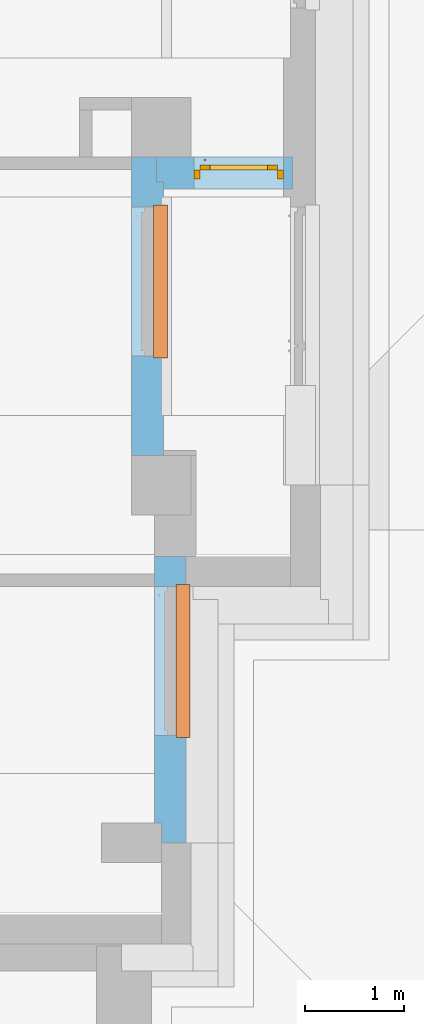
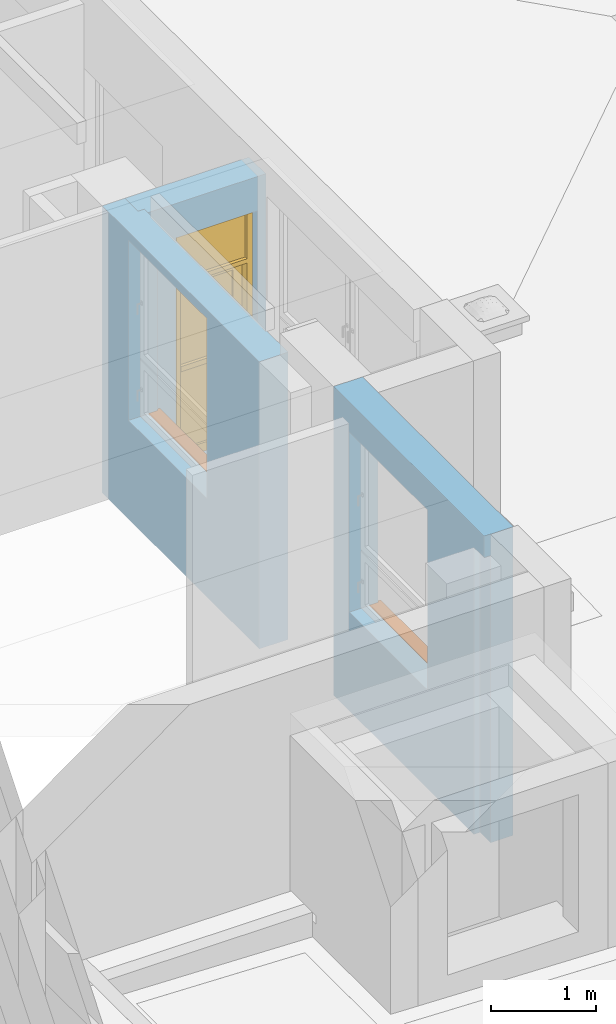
# One storey, part 42 of 50: 2 proxies, 1 door, 3 openings, plus 3 elements that do not belong to this part.
"""IFC4 building model written with IfcOpenShell, lengths in metres."""

from ifc_helpers import new_model, entity, si_unit, converted_unit, derived_unit, frame, frame_2d, origin, origin_with_axes, place, context, subcontext, project, spatial, polyline, rectangle, outline, extrude, clip, bounded_halfspace, closed_shell, open_shell, faceted_brep, surface_model, source, transform, mapped, material, layer, layer_set, layer_usage, type_object, element, fill, save


model = new_model("IFC4")

# Units and contexts
model_context = context("Model", 3, precision=1e-05, world=origin())
body_context = subcontext(model_context, "Body", "Model", "MODEL_VIEW")
ifc_project = project(units=[si_unit("LENGTHUNIT", "METRE"), si_unit("AREAUNIT", "SQUARE_METRE"), si_unit("VOLUMEUNIT", "CUBIC_METRE"), si_unit("MASSUNIT", "GRAM", prefix="KILO"), converted_unit("PLANEANGLEUNIT", "DEGREE", entity("IfcPlaneAngleMeasure", 0.0174532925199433), si_unit("PLANEANGLEUNIT", "RADIAN"), dimensions=[0, 0, 0, 0, 0, 0, 0]), derived_unit("THERMALTRANSMITTANCEUNIT", [(si_unit("POWERUNIT", "WATT"), 1), (si_unit("THERMODYNAMICTEMPERATUREUNIT", "KELVIN"), -1), (si_unit("LENGTHUNIT", "METRE"), -2)]), derived_unit("VOLUMETRICFLOWRATEUNIT", [(si_unit("LENGTHUNIT", "METRE"), 3), (converted_unit("TIMEUNIT", "hour", entity("IfcTimeMeasure", 3600.0), si_unit("TIMEUNIT", "SECOND"), dimensions=[0, 0, 1, 0, 0, 0, 0]), -1), (si_unit("LENGTHUNIT", "METRE"), -1)])], contexts=[model_context])

# Site, building, storey
site_placement = place(None, origin())
site = spatial("IfcSite", under=ifc_project, at=site_placement, Name="3. ASŘ", CompositionType="ELEMENT")
building_placement = place(site_placement, origin())
building = spatial("IfcBuilding", under=site, at=building_placement, Name="Pavilon C", CompositionType="ELEMENT")
storey_placement = place(building_placement, frame((0.0, 0.0, 3.6)))
storey = spatial("IfcBuildingStorey", under=building, at=storey_placement, Name="Půdorys 2.NP", CompositionType="ELEMENT", Elevation=3.6)

# Wall, opening, proxy
ifc_material_1 = material(Name="PLYNOSILIKÁT")
ifc_layer_1 = layer(ifc_material_1, 0.32)
ifc_layer_set_1 = layer_set([ifc_layer_1])
ifc_layer_usage_1 = layer_usage(ifc_layer_set_1, "AXIS2", "POSITIVE", 0.0)
wall_1_placement = place(storey_placement, frame((50.2, -5.51980683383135e-15, -0.1), z_axis=(0.0, 0.0, 1.0), x_axis=(0.0, 1.0, 0.0)))
wall_1 = element("IfcWall", 1, at=wall_1_placement, inside=storey, material=ifc_layer_usage_1, Name="PLYNOSILIKÁT", context=body_context, shape_type="Clipping", body=[
    clip(extrude(rectangle(XDim=2.88, YDim=0.32, at=frame_2d((1.44, 0.16), x_axis=(1.0, 0.0))), origin_with_axes(), (0.0, 0.0, 1.0), 3.6), bounded_halfspace(frame((0.0999999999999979, 0.285, 3.35), z_axis=(0.0, 0.0, 1.0), x_axis=(0.0, 1.0, 0.0)), True, origin_with_axes(), polyline([(0.199999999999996, 0.25), (0.199999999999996, 0.32), (6.28386231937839e-17, 0.32), (6.28386231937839e-17, 0.25), (0.199999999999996, 0.25)]))),
])
opening_1_placement = place(wall_1_placement, frame((1.08, 0.0, 1.15), z_axis=(0.0, 1.0, 0.0), x_axis=(0.0, 0.0, 1.0)))
opening_1 = element("IfcOpeningElement", 2, at=opening_1_placement, cuts=wall_1, Name="Okenní otvor", ObjectType="Opening", context=body_context, shape_type="SweptSolid", body=[
    extrude(outline(polyline([(0.0, 1.5), (2.1, 1.5), (2.1, 0.0), (0.0, 0.0), (0.0, 1.5)])), origin_with_axes(), (0.0, 0.0, 1.0), 0.32),
])
ifc_material_2 = material(Name="PLECH")
shared_shape_1 = source(origin_with_axes(), body_context, "Body", "Brep", [
    faceted_brep([(-4.54747350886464e-16, 1.45519152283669e-14, 0.0), (-4.54747350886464e-16, 0.100000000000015, 0.0), (-4.54747350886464e-16, 0.100000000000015, 0.005), (-4.54747350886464e-16, 1.45519152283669e-14, 0.005), (1.5, 1.45519152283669e-14, 0.0), (1.5, 1.45519152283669e-14, 0.005), (1.5, 0.100000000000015, 0.005), (1.5, 0.100000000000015, 0.0), (-0.0200000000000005, 1.45519152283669e-14, 0.0), (-0.0200000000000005, -0.0349999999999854, 0.0), (1.52, -0.0349999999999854, 0.0), (1.52, 1.45519152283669e-14, 0.0), (1.52, 1.45519152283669e-14, 0.005), (1.52, -0.0399999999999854, 0.005), (-0.0200000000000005, -0.0399999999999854, 0.005), (-0.0200000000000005, 1.45519152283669e-14, 0.005), (-0.0200000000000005, -0.0399999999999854, -0.025), (-0.0200000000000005, -0.0349999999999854, -0.025), (1.52, -0.0349999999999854, -0.025), (1.52, -0.0399999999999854, -0.025)], [[[0, 1, 2, 3]], [[4, 5, 6, 7]], [[1, 0, 8, 9, 10, 11, 4, 7]], [[2, 1, 7, 6]], [[3, 2, 6, 5, 12, 13, 14, 15]], [[8, 15, 14, 16, 17, 9]], [[11, 10, 18, 19, 13, 12]], [[15, 8, 0, 3]], [[5, 4, 11, 12]], [[16, 14, 13, 19]], [[17, 16, 19, 18]], [[9, 17, 18, 10]]], orient=[[False], [False], [False], [False], [False], [False], [False], [False], [False], [False], [False], [False]]),
    faceted_brep([(-0.0200000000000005, 1.45519152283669e-14, 0.0), (-0.0200000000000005, 0.100000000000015, 0.0), (-0.0200000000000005, 0.100000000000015, 0.005), (-0.0200000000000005, 1.45519152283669e-14, 0.005), (-4.54747350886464e-16, 1.45519152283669e-14, 0.0), (-4.54747350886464e-16, 1.45519152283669e-14, 0.005), (-4.54747350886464e-16, 0.100000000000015, 0.005), (-4.54747350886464e-16, 0.100000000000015, 0.0)], [[[0, 1, 2, 3]], [[4, 5, 6, 7]], [[1, 0, 4, 7]], [[2, 1, 7, 6]], [[3, 2, 6, 5]], [[0, 3, 5, 4]]], orient=[[False], [False], [False], [False], [False], [False]]),
    faceted_brep([(1.5, 1.45519152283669e-14, 0.0), (1.5, 0.100000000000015, 0.0), (1.5, 0.100000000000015, 0.005), (1.5, 1.45519152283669e-14, 0.005), (1.52, 1.45519152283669e-14, 0.0), (1.52, 1.45519152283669e-14, 0.005), (1.52, 0.100000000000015, 0.005), (1.52, 0.100000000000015, 0.0)], [[[0, 1, 2, 3]], [[4, 5, 6, 7]], [[1, 0, 4, 7]], [[2, 1, 7, 6]], [[3, 2, 6, 5]], [[0, 3, 5, 4]]], orient=[[False], [False], [False], [False], [False], [False]]),
])
proxy_1_placement = place(opening_1_placement, frame((0.0, 0.0, 0.0), z_axis=(1.0, 0.0, 0.0), x_axis=(0.0, 1.0, 0.0)))
proxy_1 = element("IfcBuildingElementProxy", 3, at=proxy_1_placement, inside=storey, material=ifc_material_2, Name="Parapet vnější", context=body_context, shape_type="MappedRepresentation", body=[
    mapped(shared_shape_1, transform((0.0, 0.0, 0.0), x_axis=(1.0, 0.0, 0.0), y_axis=(0.0, 1.0, 0.0), z_axis=(0.0, 0.0, 1.0), scale=1.0)),
])
fill(opening_1, proxy_1)

ifc_material_3 = material(Name="PLYNOSILIKÁT")
ifc_layer_2 = layer(ifc_material_3, 0.32)
ifc_layer_set_2 = layer_set([ifc_layer_2])
ifc_layer_usage_2 = layer_usage(ifc_layer_set_2, "AXIS2", "POSITIVE", 0.0)
wall_2_placement = place(storey_placement, frame((49.65, 6.89999999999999, -0.1), z_axis=(0.0, 0.0, 1.0), x_axis=(0.0, -1.0, 0.0)))
wall_2 = element("IfcWall", 4, at=wall_2_placement, inside=storey, material=ifc_layer_usage_2, Name="PLYNOSILIKÁT", context=body_context, shape_type="SweptSolid", body=[
    extrude(outline(polyline([(-3.0, 0.0), (0.0, 0.0), (0.0, 0.32), (-2.75, 0.32), (-2.75, 0.25), (-3.0, 0.25), (-3.0, 0.0)])), frame((3.0, 0.0, 0.0), z_axis=(0.0, 0.0, 1.0), x_axis=(1.0, 0.0, 0.0)), (0.0, 0.0, 1.0), 3.35),
])
opening_2_placement = place(wall_2_placement, frame((2.0, 0.32, 1.15), z_axis=(0.0, -1.0, 0.0), x_axis=(0.0, 0.0, 1.0)))
opening_2 = element("IfcOpeningElement", 5, at=opening_2_placement, cuts=wall_2, Name="Okenní otvor", ObjectType="Opening", context=body_context, shape_type="SweptSolid", body=[
    extrude(outline(polyline([(0.0, 1.5), (2.1, 1.5), (2.1, 0.0), (0.0, 0.0), (0.0, 1.5)])), origin_with_axes(), (0.0, 0.0, 1.0), 0.32),
])
ifc_material_4 = material(Name="PLECH")
shared_shape_2 = source(origin_with_axes(), body_context, "Body", "Brep", [
    faceted_brep([(-1.81898940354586e-15, 1.45519152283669e-14, 0.0), (-1.81898940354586e-15, 0.100000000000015, 0.0), (-1.81898940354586e-15, 0.100000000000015, 0.005), (-1.81898940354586e-15, 1.45519152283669e-14, 0.005), (1.5, 1.45519152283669e-14, 0.0), (1.5, 1.45519152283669e-14, 0.005), (1.5, 0.100000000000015, 0.005), (1.5, 0.100000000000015, 0.0), (-0.0200000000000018, 1.45519152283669e-14, 0.0), (-0.0200000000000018, -0.0349999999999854, 0.0), (1.52, -0.0349999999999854, 0.0), (1.52, 1.45519152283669e-14, 0.0), (1.52, 1.45519152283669e-14, 0.005), (1.52, -0.0399999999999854, 0.005), (-0.0200000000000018, -0.0399999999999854, 0.005), (-0.0200000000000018, 1.45519152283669e-14, 0.005), (-0.0200000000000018, -0.0399999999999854, -0.025), (-0.0200000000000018, -0.0349999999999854, -0.025), (1.52, -0.0349999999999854, -0.025), (1.52, -0.0399999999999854, -0.025)], [[[0, 1, 2, 3]], [[4, 5, 6, 7]], [[1, 0, 8, 9, 10, 11, 4, 7]], [[2, 1, 7, 6]], [[3, 2, 6, 5, 12, 13, 14, 15]], [[8, 15, 14, 16, 17, 9]], [[11, 10, 18, 19, 13, 12]], [[15, 8, 0, 3]], [[5, 4, 11, 12]], [[16, 14, 13, 19]], [[17, 16, 19, 18]], [[9, 17, 18, 10]]], orient=[[False], [False], [False], [False], [False], [False], [False], [False], [False], [False], [False], [False]]),
    faceted_brep([(-0.0200000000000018, 1.45519152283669e-14, 0.0), (-0.0200000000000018, 0.100000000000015, 0.0), (-0.0200000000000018, 0.100000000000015, 0.005), (-0.0200000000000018, 1.45519152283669e-14, 0.005), (-1.81898940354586e-15, 1.45519152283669e-14, 0.0), (-1.81898940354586e-15, 1.45519152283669e-14, 0.005), (-1.81898940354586e-15, 0.100000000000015, 0.005), (-1.81898940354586e-15, 0.100000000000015, 0.0)], [[[0, 1, 2, 3]], [[4, 5, 6, 7]], [[1, 0, 4, 7]], [[2, 1, 7, 6]], [[3, 2, 6, 5]], [[0, 3, 5, 4]]], orient=[[False], [False], [False], [False], [False], [False]]),
    faceted_brep([(1.5, 1.45519152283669e-14, 0.0), (1.5, 0.100000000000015, 0.0), (1.5, 0.100000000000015, 0.005), (1.5, 1.45519152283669e-14, 0.005), (1.52, 1.45519152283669e-14, 0.0), (1.52, 1.45519152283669e-14, 0.005), (1.52, 0.100000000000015, 0.005), (1.52, 0.100000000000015, 0.0)], [[[0, 1, 2, 3]], [[4, 5, 6, 7]], [[1, 0, 4, 7]], [[2, 1, 7, 6]], [[3, 2, 6, 5]], [[0, 3, 5, 4]]], orient=[[False], [False], [False], [False], [False], [False]]),
])
proxy_2_placement = place(opening_2_placement, frame((0.0, 0.0, 0.0), z_axis=(1.0, 0.0, 0.0), x_axis=(0.0, 1.0, 0.0)))
proxy_2 = element("IfcBuildingElementProxy", 6, at=proxy_2_placement, inside=storey, material=ifc_material_4, Name="Parapet vnější", context=body_context, shape_type="MappedRepresentation", body=[
    mapped(shared_shape_2, transform((0.0, 0.0, 0.0), x_axis=(1.0, 0.0, 0.0), y_axis=(0.0, 1.0, 0.0), z_axis=(0.0, 0.0, 1.0), scale=1.0)),
])
fill(opening_2, proxy_2)

# Wall, opening, door
ifc_material_5 = material(Name="PLYNOSILIKÁT")
ifc_layer_3 = layer(ifc_material_5, 0.32)
ifc_layer_set_3 = layer_set([ifc_layer_3])
ifc_layer_usage_3 = layer_usage(ifc_layer_set_3, "AXIS2", "POSITIVE", 0.0)
wall_3_placement = place(storey_placement, frame((51.27, 6.89999999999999, -0.1), z_axis=(0.0, 0.0, 1.0), x_axis=(-1.0, 0.0, 0.0)))
wall_3 = element("IfcWall", 7, at=wall_3_placement, inside=storey, material=ifc_layer_usage_3, Name="PLYNOSILIKÁT", context=body_context, shape_type="SweptSolid", body=[
    extrude(outline(polyline([(-1.37, -0.32), (0.0, -0.32), (0.0, -0.07), (-0.07, -0.07), (-0.07, 0.0), (-1.37, 0.0), (-1.37, -0.32)])), frame((1.37, 0.32, 0.0), z_axis=(0.0, 0.0, 1.0), x_axis=(1.0, 0.0, 0.0)), (0.0, 0.0, 1.0), 3.35),
])
opening_3_placement = place(wall_3_placement, frame((0.99, 0.32, 0.2), z_axis=(0.0, -1.0, 0.0), x_axis=(0.0, 0.0, 1.0)))
opening_3 = element("IfcOpeningElement", 8, at=opening_3_placement, cuts=wall_3, Name="Dveřní otvor", ObjectType="Opening", context=body_context, shape_type="SweptSolid", body=[
    extrude(outline(polyline([(0.0, 0.9), (2.75, 0.9), (2.75, 0.0), (0.0, 0.0), (0.0, 0.9)])), origin_with_axes(), (0.0, 0.0, 1.0), 0.32),
])
door_type = type_object("IfcDoorType", Name="D701", OperationType="NOTDEFINED", ParameterTakesPrecedence=False, PredefinedType="DOOR")
shared_shape_3 = source(origin_with_axes(), body_context, "Body", "SurfaceModel", [
    surface_model("IfcShellBasedSurfaceModel", [(0.0, 0.0920000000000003, 2.75), (0.0, 0.092, 8.57747943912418e-18), (0.06, 0.092, 8.57747943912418e-18), (0.06, 0.0920000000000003, 2.75), (0.0, 0.0, 1.98442299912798e-17), (0.0, 3.41060513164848e-16, 2.75), (0.06, 3.41060513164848e-16, 2.75), (0.06, 0.0, 1.98442299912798e-17)], [closed_shell([[[0, 1, 2, 3]], [[4, 5, 6, 7]], [[1, 0, 5, 4]], [[2, 1, 4, 7]], [[3, 2, 7, 6]], [[0, 3, 6, 5]]], orient=[[False], [False], [False], [False], [False], [False]])]),
    surface_model("IfcShellBasedSurfaceModel", [(0.84, 0.0920000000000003, 2.75), (0.84, 0.092, 8.57747943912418e-18), (0.9, 0.092, 8.57747943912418e-18), (0.9, 0.0920000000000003, 2.75), (0.84, 0.0, 1.98442299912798e-17), (0.84, 3.41060513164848e-16, 2.75), (0.9, 3.41060513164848e-16, 2.75), (0.9, 0.0, 1.98442299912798e-17)], [closed_shell([[[0, 1, 2, 3]], [[4, 5, 6, 7]], [[1, 0, 5, 4]], [[2, 1, 4, 7]], [[3, 2, 7, 6]], [[0, 3, 6, 5]]], orient=[[False], [False], [False], [False], [False], [False]])]),
    surface_model("IfcShellBasedSurfaceModel", [(0.06, 0.0920000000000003, 2.75), (0.06, 0.0920000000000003, 2.69), (0.84, 0.0920000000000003, 2.69), (0.84, 0.0920000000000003, 2.75), (0.06, 3.26849658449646e-16, 2.69), (0.06, 3.41060513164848e-16, 2.75), (0.84, 3.41060513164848e-16, 2.75), (0.84, 3.26849658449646e-16, 2.69)], [closed_shell([[[0, 1, 2, 3]], [[4, 5, 6, 7]], [[1, 0, 5, 4]], [[2, 1, 4, 7]], [[3, 2, 7, 6]], [[0, 3, 6, 5]]], orient=[[False], [False], [False], [False], [False], [False]])]),
    surface_model("IfcShellBasedSurfaceModel", [(0.06, 0.0920000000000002, 2.15), (0.06, 0.0920000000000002, 2.1), (0.84, 0.0920000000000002, 2.1), (0.84, 0.0920000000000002, 2.15), (0.06, 2.55795384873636e-16, 2.1), (0.06, 2.55795384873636e-16, 2.15), (0.84, 2.55795384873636e-16, 2.15), (0.84, 2.55795384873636e-16, 2.1)], [closed_shell([[[0, 1, 2, 3]], [[4, 5, 6, 7]], [[1, 0, 5, 4]], [[2, 1, 4, 7]], [[3, 2, 7, 6]], [[0, 3, 6, 5]]], orient=[[False], [False], [False], [False], [False], [False]])]),
    surface_model("IfcShellBasedSurfaceModel", [(0.06, 0.142, 2.1), (0.06, 0.142, 2.45424544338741e-18), (0.16, 0.142, 2.45424544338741e-18), (0.16, 0.142, 2.1), (0.06, 0.092, 8.57747943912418e-18), (0.06, 0.0920000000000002, 2.1), (0.16, 0.0920000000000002, 2.1), (0.16, 0.092, 8.57747943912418e-18)], [closed_shell([[[0, 1, 2, 3]], [[4, 5, 6, 7]], [[1, 0, 5, 4]], [[2, 1, 4, 7]], [[3, 2, 7, 6]], [[0, 3, 6, 5]]], orient=[[False], [False], [False], [False], [False], [False]])]),
    surface_model("IfcShellBasedSurfaceModel", [(0.74, 0.142, 2.1), (0.74, 0.142, 2.45424544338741e-18), (0.84, 0.142, 2.45424544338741e-18), (0.84, 0.142, 2.1), (0.74, 0.092, 8.57747943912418e-18), (0.74, 0.0920000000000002, 2.1), (0.84, 0.0920000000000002, 2.1), (0.84, 0.092, 8.57747943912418e-18)], [closed_shell([[[0, 1, 2, 3]], [[4, 5, 6, 7]], [[1, 0, 5, 4]], [[2, 1, 4, 7]], [[3, 2, 7, 6]], [[0, 3, 6, 5]]], orient=[[False], [False], [False], [False], [False], [False]])]),
    surface_model("IfcShellBasedSurfaceModel", [(0.16, 0.142, 0.1), (0.16, 0.142, 2.45424544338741e-18), (0.74, 0.142, 2.45424544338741e-18), (0.74, 0.142, 0.1), (0.16, 0.092, 8.57747943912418e-18), (0.16, 0.092, 0.1), (0.74, 0.092, 0.1), (0.74, 0.092, 8.57747943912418e-18)], [closed_shell([[[0, 1, 2, 3]], [[4, 5, 6, 7]], [[1, 0, 5, 4]], [[2, 1, 4, 7]], [[3, 2, 7, 6]], [[0, 3, 6, 5]]], orient=[[False], [False], [False], [False], [False], [False]])]),
    surface_model("IfcShellBasedSurfaceModel", [(0.16, 0.142, 2.1), (0.16, 0.142, 2.0), (0.74, 0.142, 2.0), (0.74, 0.142, 2.1), (0.16, 0.0920000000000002, 2.0), (0.16, 0.0920000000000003, 2.1), (0.74, 0.0920000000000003, 2.1), (0.74, 0.0920000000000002, 2.0)], [closed_shell([[[0, 1, 2, 3]], [[4, 5, 6, 7]], [[1, 0, 5, 4]], [[2, 1, 4, 7]], [[3, 2, 7, 6]], [[0, 3, 6, 5]]], orient=[[False], [False], [False], [False], [False], [False]])]),
    surface_model("IfcShellBasedSurfaceModel", [(0.7775, 0.142, 1.07), (0.8025, 0.142, 1.07), (0.8025, 0.142, 1.03), (0.7775, 0.142, 1.03), (0.7775, 0.152, 1.03), (0.8025, 0.152, 1.03), (0.8025, 0.152, 1.07), (0.7775, 0.152, 1.07)], [closed_shell([[[0, 1, 2, 3]], [[4, 5, 6, 7]], [[3, 4, 7, 0]], [[2, 5, 4, 3]], [[1, 6, 5, 2]], [[0, 7, 6, 1]]], orient=[[False], [False], [False], [False], [False], [False]])]),
    surface_model("IfcShellBasedSurfaceModel", [(0.8, 0.152, 1.05), (0.798660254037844, 0.152, 1.045), (0.795, 0.152, 1.04133974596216), (0.79, 0.152, 1.04), (0.785, 0.152, 1.04133974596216), (0.781339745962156, 0.152, 1.045), (0.78, 0.152, 1.05), (0.781339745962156, 0.152, 1.055), (0.785, 0.152, 1.05866025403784), (0.79, 0.152, 1.06), (0.795, 0.152, 1.05866025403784), (0.798660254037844, 0.152, 1.055), (0.798660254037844, 0.197, 1.055), (0.8, 0.192, 1.05), (0.795, 0.200660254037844, 1.05866025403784), (0.79, 0.202, 1.06), (0.785, 0.200660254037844, 1.05866025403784), (0.781339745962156, 0.197, 1.055), (0.78, 0.192, 1.05), (0.781339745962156, 0.187, 1.045), (0.785, 0.183339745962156, 1.04133974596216), (0.79, 0.182, 1.04), (0.795, 0.183339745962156, 1.04133974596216), (0.798660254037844, 0.187, 1.045), (0.798660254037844, 0.197, 0.935), (0.8, 0.192, 0.935), (0.795, 0.200660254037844, 0.935), (0.79, 0.202, 0.935), (0.785, 0.200660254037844, 0.935), (0.781339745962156, 0.197, 0.935), (0.78, 0.192, 0.935), (0.781339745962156, 0.187, 0.935), (0.785, 0.183339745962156, 0.935), (0.79, 0.182, 0.935), (0.795, 0.183339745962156, 0.935), (0.798660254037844, 0.187, 0.935)], [open_shell([[[0, 1, 2, 3, 4, 5, 6, 7, 8, 9, 10, 11]], [[0, 11, 12, 13]], [[11, 10, 14, 12]], [[10, 9, 15, 14]], [[9, 8, 16, 15]], [[8, 7, 17, 16]], [[7, 6, 18, 17]], [[6, 5, 19, 18]], [[5, 4, 20, 19]], [[4, 3, 21, 20]], [[3, 2, 22, 21]], [[2, 1, 23, 22]], [[1, 0, 13, 23]], [[13, 12, 24, 25]], [[12, 14, 26, 24]], [[14, 15, 27, 26]], [[15, 16, 28, 27]], [[16, 17, 29, 28]], [[17, 18, 30, 29]], [[18, 19, 31, 30]], [[19, 20, 32, 31]], [[20, 21, 33, 32]], [[21, 22, 34, 33]], [[22, 23, 35, 34]], [[23, 13, 25, 35]]], orient=[[False], [False], [False], [False], [False], [False], [False], [False], [False], [False], [False], [False], [False], [False], [False], [False], [False], [False], [False], [False], [False], [False], [False], [False], [False]])]),
    surface_model("IfcShellBasedSurfaceModel", [(0.06, 0.0560000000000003, 2.69), (0.06, 0.0560000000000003, 2.15), (0.84, 0.0560000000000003, 2.15), (0.84, 0.0560000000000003, 2.69), (0.06, 0.0360000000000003, 2.15), (0.06, 0.0360000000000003, 2.69), (0.84, 0.0360000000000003, 2.69), (0.84, 0.0360000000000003, 2.15)], [closed_shell([[[0, 1, 2, 3]], [[4, 5, 6, 7]], [[1, 0, 5, 4]], [[2, 1, 4, 7]], [[3, 2, 7, 6]], [[0, 3, 6, 5]]], orient=[[False], [False], [False], [False], [False], [False]])]),
    surface_model("IfcShellBasedSurfaceModel", [(0.16, 0.152, 1.08), (0.16, 0.152, 1.02), (0.74, 0.152, 1.02), (0.74, 0.152, 1.08), (0.16, 0.0820000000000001, 1.02), (0.16, 0.0820000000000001, 1.08), (0.74, 0.0820000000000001, 1.08), (0.74, 0.0820000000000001, 1.02)], [closed_shell([[[0, 1, 2, 3]], [[4, 5, 6, 7]], [[1, 0, 5, 4]], [[2, 1, 4, 7]], [[3, 2, 7, 6]], [[0, 3, 6, 5]]], orient=[[False], [False], [False], [False], [False], [False]])]),
    surface_model("IfcShellBasedSurfaceModel", [(0.16, 0.117, 0.1), (0.74, 0.117, 0.1), (0.74, 0.117, 1.02), (0.16, 0.117, 1.02)], [open_shell([[[0, 1, 2, 3]]], orient=[[False]])]),
    surface_model("IfcShellBasedSurfaceModel", [(0.16, 0.117, 1.08), (0.74, 0.117, 1.08), (0.74, 0.117, 2.0), (0.16, 0.117, 2.0)], [open_shell([[[0, 1, 2, 3]]], orient=[[False]])]),
])
door_placement = place(opening_3_placement, frame((0.0, 0.9, 0.1), z_axis=(1.0, 0.0, 0.0), x_axis=(0.0, -1.0, 0.0)))
door = element("IfcDoor", 9, at=door_placement, inside=storey, type_object=door_type, Name="D701", OverallHeight=2.75, OverallWidth=0.9, context=body_context, shape_type="MappedRepresentation", body=[
    mapped(shared_shape_3, transform((0.0, 0.0, 0.0), x_axis=(1.0, 0.0, 0.0), y_axis=(0.0, -1.0, 0.0), z_axis=(0.0, 0.0, 1.0), scale=1.0)),
])
fill(opening_3, door)

save(model, "model.ifc")
